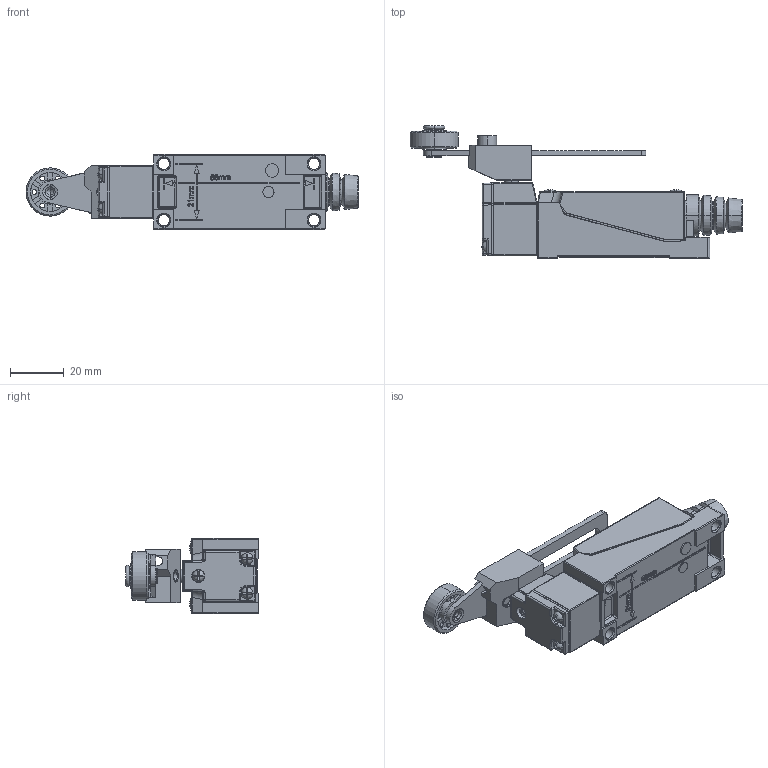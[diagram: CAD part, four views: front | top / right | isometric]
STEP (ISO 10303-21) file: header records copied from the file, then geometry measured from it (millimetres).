
FILE_DESCRIPTION((''),'2;1');
FILE_NAME('PRT0002','2020-11-14T',('gaodl'),(''),'CREO PARAMETRIC BY PTC INC, 2015480','CREO PARAMETRIC BY PTC INC, 2015480','');
FILE_SCHEMA(('CONFIG_CONTROL_DESIGN'));
Products named in the file (1): PRT0002
Bounding box: 123.8 x 49.5 x 28 mm (x, y, z)
Volume: 47402 mm3; surface area: 32751.4 mm2
Topology: 4 solids, 46 shells, 1761 faces, 4822 edges, 3051 vertices
Faces by surface type: plane 960, cylinder 413, extrusion 132, cone 113, torus 60, sphere 44, bspline 39
Entity records: 71258 total; most frequent: CARTESIAN_POINT 14113, ORIENTED_EDGE 9514, DIRECTION 8631, EDGE_CURVE 4806, VERTEX_POINT 3051, VECTOR 3039, LINE 2907, AXIS2_PLACEMENT_3D 2796
